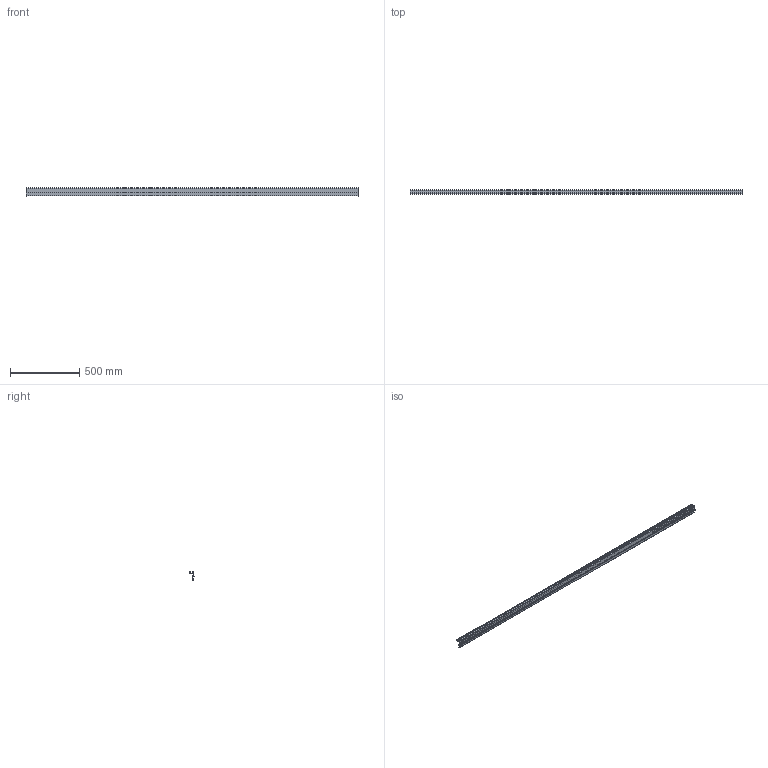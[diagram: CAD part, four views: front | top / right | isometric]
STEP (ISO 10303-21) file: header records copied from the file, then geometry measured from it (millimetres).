
FILE_DESCRIPTION( ( '' ), '1' );
FILE_NAME( '//10.120.51.241/design/Data Transfer/sunil/79013.stp', '2013-09-20T06:14:11', ( '' ), ( '' ), ' ', ' ', ' ' );
FILE_SCHEMA( ( 'automotive_design' ) );
Length unit declared in the file: millimetre
Products named in the file (1): 1
Bounding box: 2400 x 34.7 x 59.97 mm (x, y, z)
Volume: 1183349.3 mm3; surface area: 538627 mm2
Topology: 1 solids, 1 shells, 47 faces, 135 edges, 90 vertices
Faces by surface type: plane 29, cylinder 18
Entity records: 3070 total; most frequent: STYLED_ITEM 273, PRESENTATION_STYLE_ASSIGNMENT 273, CARTESIAN_POINT 273, COLOUR_RGB 273, ORIENTED_EDGE 270, DIRECTION 267, EDGE_CURVE 135, CURVE_STYLE 135
